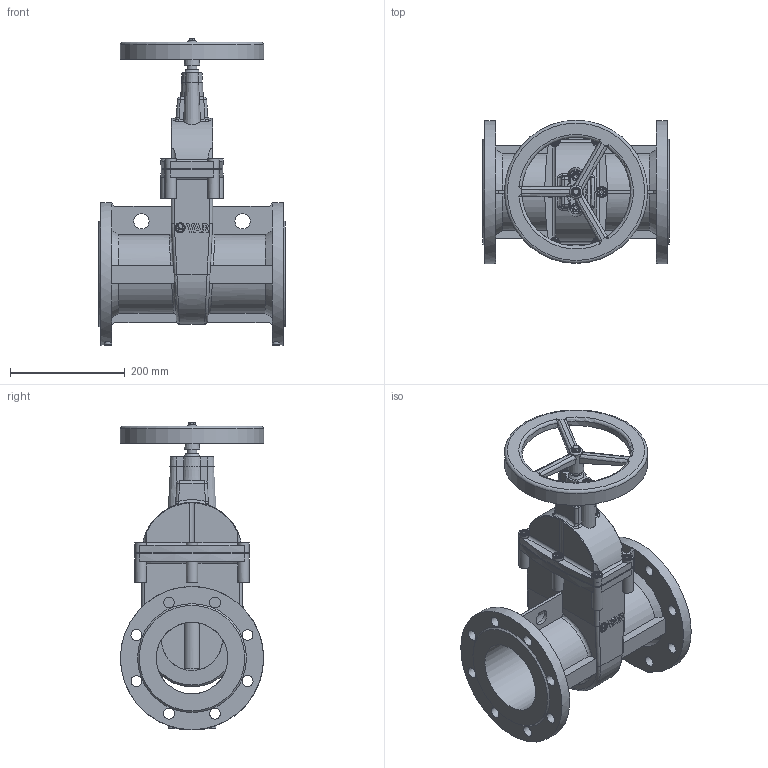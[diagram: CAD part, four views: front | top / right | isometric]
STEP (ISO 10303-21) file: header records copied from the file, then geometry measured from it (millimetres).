
FILE_DESCRIPTION(('STEP AP242'), '1');
FILE_NAME('青溻桄赅', '', ('UNSPECIFIED'), ('UNSPECIFIED'), 'C3D Converter', 'C3D Toolkit', '');
FILE_SCHEMA(('AP242_MANAGED_MODEL_BASED_3D_ENGINEERING_MIM_LF { 1 0 10303 442 1 1 4 }'));
Length unit declared in the file: millimetre
Assembly tree (17 placements, depth 2):
  (unnamed)
    (unnamed)
    (unnamed)
    (unnamed)
    (unnamed)
    (unnamed)  x2
    (unnamed)
    (unnamed)
    (unnamed)  x8
    (unnamed)
Bounding box: 325 x 250 x 536.6 mm (x, y, z)
Volume: 4729547.5 mm3; surface area: 1088441.8 mm2
Topology: 20 solids, 20 shells, 963 faces, 2407 edges, 1533 vertices
Faces by surface type: plane 477, cylinder 195, extrusion 131, bspline 70, cone 69, torus 21
Full cylindrical faces by diameter (mm): 6 x3, 8 x8, 10 x30, 16 x16, 17 x7, 17.626 x1, 19 x16, 26.5 x2, 29.667 x4, 106 x2, 125 x4, 155.4 x4, 163 x1, 190 x1, 200 x1, 240 x1, 250 x3
Entity records: 42177 total; most frequent: CARTESIAN_POINT 21201, ORIENTED_EDGE 3848, DIRECTION 3014, EDGE_CURVE 1924, VERTEX_POINT 1311, VECTOR 1050, EDGE_LOOP 1047, AXIS2_PLACEMENT_3D 982
